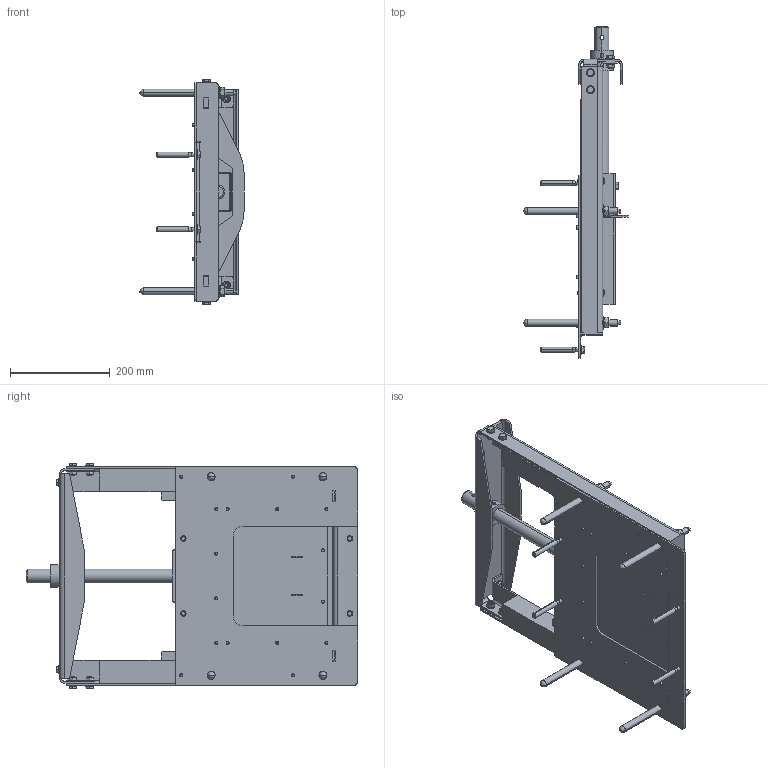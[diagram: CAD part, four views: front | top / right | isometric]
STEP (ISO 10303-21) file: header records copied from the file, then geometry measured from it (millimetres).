
FILE_DESCRIPTION (( 'STEP AP214' ), '1' );
FILE_NAME ('200x200.STEP', '2024-02-22T14:24:44', ( '' ), ( '' ), 'SwSTEP 2.0', 'SolidWorks 2020', '' );
FILE_SCHEMA (( 'AUTOMOTIVE_DESIGN' ));
Length unit declared in the file: millimetre
Products named in the file (1): 200x200
Bounding box: 209 x 665 x 451.8 mm (x, y, z)
Volume: 4105258.8 mm3; surface area: 1059103.7 mm2
Topology: 4 solids, 8 shells, 1887 faces, 4682 edges, 2946 vertices
Faces by surface type: cylinder 767, plane 642, cone 426, torus 36, sphere 16
Entity records: 60513 total; most frequent: CARTESIAN_POINT 16638, ORIENTED_EDGE 9260, DIRECTION 8804, EDGE_CURVE 4630, AXIS2_PLACEMENT_3D 3386, VERTEX_POINT 2938, EDGE_LOOP 2168, VECTOR 2032
